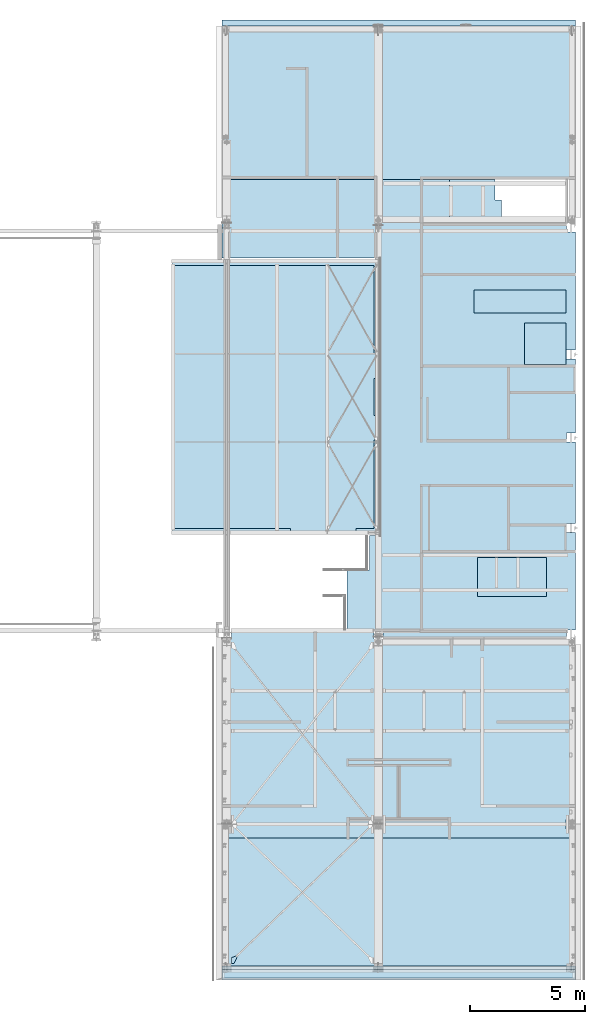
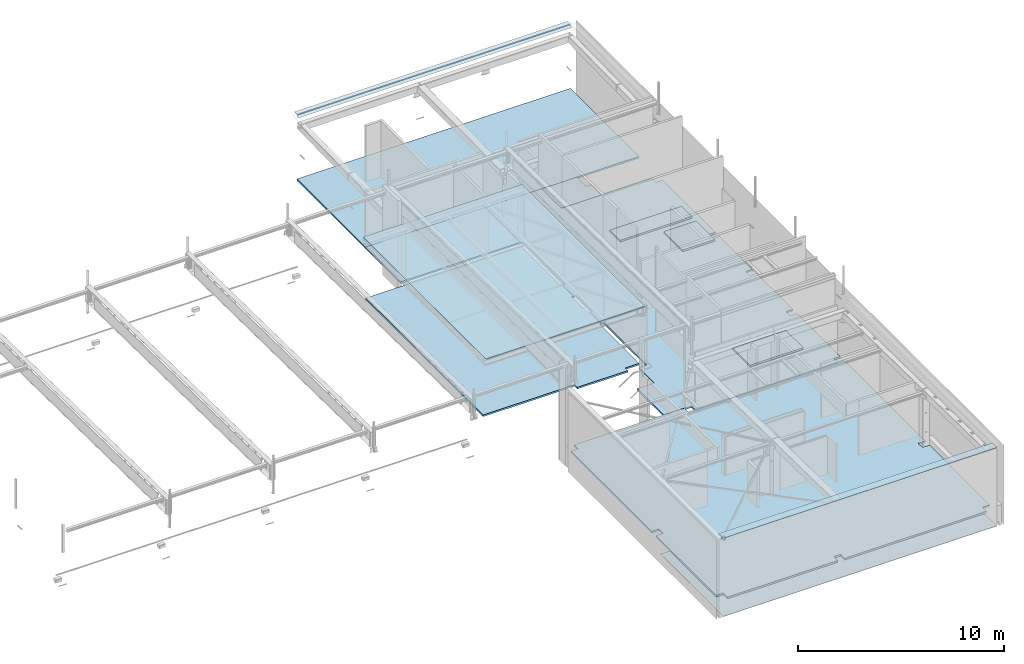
# One storey, part 114 of 186: 14 slabs, 1 plate, 3 elements without a shape of their own.
"""IFC4X3_ADD2 building model written with IfcOpenShell, lengths in millimetres."""

from ifc_helpers import new_model, si_unit, direction, frame, frame_2d, origin_with_axes, place, context, subcontext, project, spatial, polyline, rectangle, outline, extrude, clip, bounded_halfspace, material, layer, layer_set, layer_usage, type_object, element, aggregate, save


model = new_model("IFC4X3_ADD2")

# Units and contexts
model_context = context("Model", 3, precision=1e-05, world=origin_with_axes(), true_north=direction((0.0, 1.0)))
body_context = subcontext(model_context, "Body", "Model", "MODEL_VIEW")
ifc_project = project(units=[si_unit("LENGTHUNIT", "METRE", prefix="MILLI"), si_unit("AREAUNIT", "SQUARE_METRE"), si_unit("VOLUMEUNIT", "CUBIC_METRE"), si_unit("PLANEANGLEUNIT", "RADIAN"), si_unit("TIMEUNIT", "SECOND"), si_unit("MASSUNIT", "GRAM")], contexts=[model_context])

# Site, building, storey
site_placement = place(None, origin_with_axes())
site = spatial("IfcSite", under=ifc_project, at=site_placement, Name="Site", CompositionType="ELEMENT")
building_placement = place(site_placement, origin_with_axes())
building = spatial("IfcBuilding", under=site, at=building_placement, Name="IFC Building Story")
storey_placement = place(building_placement, frame((0.0, 0.0, 4370.0), z_axis=(0.0, 0.0, 1.0), x_axis=(1.0, 0.0, 0.0)))
storey = spatial("IfcBuildingStorey", under=building, at=storey_placement, Name="ETAGE 10 (1)", Elevation=4370.0)

# Slabs
ifc_material_1 = material(Name="BS_43_Revêtement de sol souple")
ifc_layer_1 = layer(ifc_material_1, 10.0)
ifc_material_2 = material(Name="BS_43_Panneau OSB")
ifc_layer_2 = layer(ifc_material_2, 18.0)
ifc_material_3 = material(Name="BS_43_Acoustix Pan-Terre")
ifc_layer_3 = layer(ifc_material_3, 16.0)
ifc_material_4 = material(Name="BS_43_Laine minérale")
ifc_layer_4 = layer(ifc_material_4, 56.0)
ifc_layer_set_1 = layer_set([ifc_layer_1, ifc_layer_2, ifc_layer_3, ifc_layer_4], Name="Sol:BS_43_FL_REV10-OSB18-ISOacou16-SUPP")
ifc_layer_usage_1 = layer_usage(ifc_layer_set_1, "AXIS3", "POSITIVE", 0.0)
slab_type_1 = type_object("IfcSlabType", Name="Sol:BS_43_FL_REV10-OSB18-ISOacou16-SUPP 100", PredefinedType="FLOOR", material=ifc_layer_set_1)
slab_1_placement = place(storey_placement, frame((31047.18947812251, 16170.50000007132, -100.0), z_axis=(0.0, 0.0, 1.0), x_axis=(0.0, -1.0, 0.0)))
element("IfcSlab", 1, at=slab_1_placement, inside=storey, type_object=slab_type_1, material=ifc_layer_usage_1, Name="Sol:BS_43_FL_REV10-OSB18-ISOacou16-SUPP", ObjectType="Sol:BS_43_FL_REV10-OSB18-ISOacou16-SUPP", PredefinedType="FLOOR", context=body_context, shape_type="SweptSolid", body=[
    extrude(outline(polyline([(4499.36030063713, -1993.375000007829), (4244.86030063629, -1993.375000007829), (4244.86030063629, -7107.874999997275), (-7155.639699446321, -7107.874999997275), (-7155.63969944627, 1619.625000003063), (-3316.639699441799, 1619.625000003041), (-3316.639699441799, 1704.125000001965), (-2256.639699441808, 1704.125000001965), (-2256.639699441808, 1617.125000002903), (-660.0809017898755, 1617.125000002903), (-660.0809017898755, 1704.125000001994), (399.9190982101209, 1704.125000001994), (399.9190982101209, 1619.625000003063), (4244.860300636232, 1619.625000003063), (4244.860300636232, 836.6249999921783), (4499.36030063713, 836.6249999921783), (4499.36030063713, -1993.375000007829)])), frame((7155.639699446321, 7107.874999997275, 0.0), z_axis=(0.0, 0.0, 1.0), x_axis=(1.0, 0.0, 0.0)), (0.0, 0.0, 1.0), 100.0),
])
ifc_material_5 = material(Name="BS_43_Chape")
slab_type_2 = type_object("IfcSlabType", Name="Sol:BS_43_FL_CHlissée100", PredefinedType="FLOOR", material=ifc_material_5)
slab_2_placement = place(storey_placement, frame((33201.6894781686, -14460.0, -100.0), z_axis=(0.0, 0.0, 1.0), x_axis=(1.0, 0.0, 0.0)))
element("IfcSlab", 2, at=slab_2_placement, inside=storey, type_object=slab_type_2, Name="Sol:BS_43_FL_CHlissée100", ObjectType="Sol:BS_43_FL_CHlissée100", PredefinedType="FLOOR", context=body_context, shape_type="SweptSolid", body=[
    extrude(outline(polyline([(8103.314974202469, -5400.185159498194), (8103.314974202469, -5800.185159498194), (162.8144960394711, -5800.185159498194), (162.8144960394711, -5425.185159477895), (147.8144960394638, -5410.185159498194), (-212.1855039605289, -5410.185159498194), (-227.1855039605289, -5425.185159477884), (-227.1855039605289, -5800.185159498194), (-6396.685025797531, -5800.185159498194), (-6396.685025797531, -5400.185159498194), (-6796.685025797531, -5400.185159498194), (-6796.685025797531, 429.8147538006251), (-6396.685025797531, 429.8147538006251), (-6396.685025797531, 829.8147538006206), (-6796.685025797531, 829.8147538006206), (-6796.685025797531, 8659.814840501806), (-6396.685025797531, 8659.814840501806), (-6396.685025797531, 9059.814840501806), (-227.1855039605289, 9059.814840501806), (-227.1855039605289, 8674.814840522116), (-212.1855039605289, 8659.814840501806), (8503.314974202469, 8659.814840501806), (8503.314974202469, 829.8147538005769), (8103.314974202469, 829.8147538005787), (8103.314974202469, 429.814753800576), (8503.314974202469, 429.814753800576), (8503.314974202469, -5400.185159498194), (8103.314974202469, -5400.185159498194)])), frame((6796.685025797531, 5800.185159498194, 0.0), z_axis=(0.0, 0.0, 1.0), x_axis=(1.0, 0.0, 0.0)), (0.0, 0.0, 1.0), 100.0),
])
slab_3_placement = place(storey_placement, frame((38621.189, 19900.0, -100.0), z_axis=(0.0, 0.0, 1.0), x_axis=(0.0, -1.0, 0.0)))
element("IfcSlab", 3, at=slab_3_placement, inside=storey, type_object=slab_type_2, Name="Sol:BS_43_FL_CHlissée100", ObjectType="Sol:BS_43_FL_CHlissée100", PredefinedType="FLOOR", context=body_context, shape_type="SweptSolid", body=[
    extrude(outline(polyline([(8332.536979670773, 3617.040603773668), (8707.536979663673, 3617.040603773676), (8707.536979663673, -4337.95839622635), (8317.536979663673, -4337.95839622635), (8317.536979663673, -4727.958396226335), (8307.536750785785, -4727.958396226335), (8307.536750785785, -5877.958396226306), (5737.537015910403, -5877.958396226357), (5737.537015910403, -4919.957918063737), (4239.536979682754, -4919.957918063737), (4239.536979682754, -4479.957918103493), (92.59577725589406, -4479.957918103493), (92.59577725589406, -4639.957918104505), (-967.4042227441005, -4639.957918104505), (-967.4042227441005, -4479.95791810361), (-2563.963020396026, -4479.95791810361), (-2563.963020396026, -4639.957918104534), (-3623.963020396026, -4639.957918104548), (-3623.963020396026, -4479.957918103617), (-7762.463020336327, -4479.957918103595), (-7762.463020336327, -4592.457918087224), (-11192.46302033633, -4592.457918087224), (-11192.46302033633, -1447.457918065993), (-9292.463020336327, -1447.457918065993), (-9292.463020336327, 3617.041240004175), (-8917.462631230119, 3617.041240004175), (-8902.462631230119, 3632.041240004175), (-8902.462631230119, 4002.54208193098), (-3807.463631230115, 4002.54208193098), (-3807.463631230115, 3632.041240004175), (-3792.463631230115, 3617.041240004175), (-3432.463631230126, 3617.041240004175), (-3417.463631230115, 3632.041240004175), (-3417.463631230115, 4002.54208193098), (-197.4636312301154, 4002.54208193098), (-197.4636312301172, 3632.041240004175), (-182.4636312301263, 3617.041240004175), (177.5363687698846, 3617.041240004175), (192.5363687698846, 3632.041240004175), (192.5363687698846, 4002.54208193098), (3712.536368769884, 4002.54208193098), (3712.536368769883, 3632.041240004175), (3727.536368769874, 3617.041240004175), (4087.536368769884, 3617.041240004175), (4102.536368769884, 3632.041240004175), (4102.536368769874, 4002.54208193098), (8317.536979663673, 4002.54208193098), (8317.536979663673, 3632.040603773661), (8332.536979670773, 3617.040603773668)])), frame((11192.46302033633, 5877.958396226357, 0.0), z_axis=(0.0, 0.0, 1.0), x_axis=(1.0, 0.0, 0.0)), (0.0, 0.0, 1.0), 100.0),
])
slab_4_placement = place(storey_placement, frame((33201.68947816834, 16501.50000006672, -100.0), z_axis=(0.0, 0.0, 1.0), x_axis=(1.0, 0.0, 0.0)))
element("IfcSlab", 4, at=slab_4_placement, inside=storey, type_object=slab_type_2, Name="Sol:BS_43_FL_CHlissée100", ObjectType="Sol:BS_43_FL_CHlissée100", PredefinedType="FLOOR", context=body_context, shape_type="SweptSolid", body=[
    extrude(rectangle(XDim=6704.999999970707, YDim=3398.499999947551, at=frame_2d((0.0, 5.95523630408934e-12), x_axis=(1.0, 0.0))), frame((3352.499999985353, 1699.249999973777, 0.0), z_axis=(0.0, 0.0, 1.0), x_axis=(1.0, 0.0, 0.0)), (0.0, 0.0, 1.0), 100.0),
])
ifc_material_6 = material(Name="BS_28_Ossature en béton armé - Eléments coulé sur place")
slab_type_3 = type_object("IfcSlabType", Name="Sol:DG_23_FL_SocleEquipement100mm", PredefinedType="FLOOR", material=ifc_material_6)
slab_5_placement = place(storey_placement, frame((44101.68947815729, 14104.00000000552, 0.0), z_axis=(0.0, 0.0, 1.0), x_axis=(1.0, 0.0, 0.0)))
element("IfcSlab", 5, at=slab_5_placement, inside=storey, type_object=slab_type_3, Name="Sol:DG_23_FL_SocleEquipement100mm", ObjectType="Sol:DG_23_FL_SocleEquipement100mm", PredefinedType="FLOOR", context=body_context, shape_type="SweptSolid", body=[
    extrude(rectangle(XDim=4000.000000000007, YDim=999.9999999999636, at=frame_2d((0.0, 5.95523630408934e-12), x_axis=(1.0, 0.0))), frame((2000.0, 499.9999999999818, 0.0), z_axis=(0.0, 0.0, 1.0), x_axis=(1.0, 0.0, 0.0)), (0.0, 0.0, 1.0), 100.0),
])
slab_6_placement = place(storey_placement, frame((46301.68947815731, 13685.00000001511, 0.0), z_axis=(0.0, 0.0, 1.0), x_axis=(0.0, -1.0, 0.0)))
element("IfcSlab", 6, at=slab_6_placement, inside=storey, type_object=slab_type_3, Name="Sol:DG_23_FL_SocleEquipement100mm", ObjectType="Sol:DG_23_FL_SocleEquipement100mm", PredefinedType="FLOOR", context=body_context, shape_type="SweptSolid", body=[
    extrude(rectangle(XDim=1807.25000000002, YDim=1799.999999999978, at=frame_2d((0.0, 5.95523630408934e-12), x_axis=(-1.0, 0.0))), frame((903.6250000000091, 899.9999999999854, 0.0), z_axis=(0.0, 0.0, 1.0), x_axis=(1.0, 0.0, 0.0)), (0.0, 0.0, 1.0), 100.0),
])
slab_7_placement = place(storey_placement, frame((44272.68947815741, 1823.999999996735, 0.0), z_axis=(0.0, 0.0, 1.0), x_axis=(1.0, 0.0, 0.0)))
element("IfcSlab", 7, at=slab_7_placement, inside=storey, type_object=slab_type_3, Name="Sol:DG_23_FL_SocleEquipement100mm", ObjectType="Sol:DG_23_FL_SocleEquipement100mm", PredefinedType="FLOOR", context=body_context, shape_type="SweptSolid", body=[
    extrude(rectangle(XDim=2968.999999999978, YDim=1686.00000000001, at=frame_2d((0.0, 5.95523630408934e-12), x_axis=(1.0, 0.0))), frame((1484.499999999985, 843.000000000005, 0.0), z_axis=(0.0, 0.0, 1.0), x_axis=(1.0, 0.0, 0.0)), (0.0, 0.0, 1.0), 100.0),
])
ifc_material_7 = material(Name="BS_41_Bardage en tôle perforé")
slab_type_4 = type_object("IfcSlabType", Name="Sol:DG_35_FL_Métal déployé", PredefinedType="FLOOR", material=ifc_material_7)
slab_8_placement = place(storey_placement, frame((33211.57019213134, -14740.00000089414, -845.5824798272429), z_axis=(0.0, 0.0, 1.0), x_axis=(1.0, 0.0, 0.0)))
element("IfcSlab", 8, at=slab_8_placement, inside=storey, type_object=slab_type_4, Name="Sol:DG_35_FL_Métal déployé", ObjectType="Sol:DG_35_FL_Métal déployé", PredefinedType="FLOOR", context=body_context, shape_type="SweptSolid", body=[
    extrude(rectangle(XDim=15280.0000047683, YDim=6100.000001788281, at=frame_2d((0.0, 5.95523630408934e-12), x_axis=(1.0, 0.0))), frame((7640.000002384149, 3050.000000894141, 0.0), z_axis=(0.0, 0.0, 1.0), x_axis=(1.0, 0.0, 0.0)), (0.0, 0.0, 1.0), 9.999999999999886),
])
ifc_material_8 = material(Name="BS_43_Plaques fibres-gypse (Fermacell)")
ifc_layer_5 = layer(ifc_material_8, 25.0)
ifc_layer_6 = layer(ifc_material_4, 20.0)
ifc_layer_set_2 = layer_set([ifc_layer_5, ifc_layer_6], Name="Sol:BS_43_FL_CHsèche acoustique45")
ifc_layer_usage_2 = layer_usage(ifc_layer_set_2, "AXIS3", "POSITIVE", 0.0)
slab_type_5 = type_object("IfcSlabType", Name="Sol:BS_43_FL_CHsèche acoustique45 45", PredefinedType="FLOOR", material=ifc_layer_set_2)
slab_9_placement = place(storey_placement, frame((31049.68947812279, 16419.9999999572, 3417.999999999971), z_axis=(0.0, 0.0, 1.0), x_axis=(0.0, -1.0, 0.0)))
element("IfcSlab", 9, at=slab_9_placement, inside=storey, type_object=slab_type_5, material=ifc_layer_usage_2, Name="Sol:BS_43_FL_CHsèche acoustique45", ObjectType="Sol:BS_43_FL_CHsèche acoustique45", PredefinedType="FLOOR", context=body_context, shape_type="SweptSolid", body=[
    extrude(rectangle(XDim=11901.9999999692, YDim=8898.999999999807, at=frame_2d((0.0, 5.95523630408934e-12), x_axis=(-1.0, 0.0))), frame((5950.999999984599, 4449.499999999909, 0.0), z_axis=(0.0, 0.0, 1.0), x_axis=(1.0, 0.0, 0.0)), (0.0, 0.0, 1.0), 44.99999999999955),
])
ifc_layer_7 = layer(ifc_material_1, 2.0)
ifc_layer_8 = layer(ifc_material_5, 98.0)
ifc_layer_set_3 = layer_set([ifc_layer_7, ifc_layer_8], Name="Sol:BS_43_FL_CHsèche98-Lino2")
ifc_layer_usage_3 = layer_usage(ifc_layer_set_3, "AXIS3", "POSITIVE", 0.0)
slab_type_6 = type_object("IfcSlabType", Name="Sol:BS_43_FL_CHsèche98-Lino2 100", PredefinedType="FLOOR", material=ifc_layer_set_3)
slab_10_placement = place(storey_placement, frame((33201.6894781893, 19900.00000001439, -100.0), z_axis=(0.0, 0.0, 1.0), x_axis=(1.0, 0.0, 0.0)))
element("IfcSlab", 10, at=slab_10_placement, inside=storey, type_object=slab_type_6, material=ifc_layer_usage_3, Name="Sol:BS_43_FL_CHsèche98-Lino2", ObjectType="Sol:BS_43_FL_CHsèche98-Lino2", PredefinedType="FLOOR", context=body_context, shape_type="SweptSolid", body=[
    extrude(rectangle(XDim=15299.999999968, YDim=6649.999999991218, at=frame_2d((0.0, 5.95523630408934e-12), x_axis=(1.0, 0.0))), frame((7649.999999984, 3324.999999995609, 0.0), z_axis=(0.0, 0.0, 1.0), x_axis=(1.0, 0.0, 0.0)), (0.0, 0.0, 1.0), 100.0),
])
slab_type_7 = type_object("IfcSlabType", Name="Sol:BS_43_FL_CHlissée130", PredefinedType="FLOOR", material=ifc_material_5)
slab_11_placement = place(storey_placement, frame((43051.68947816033, 18000.00000000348, -130.0), z_axis=(0.0, 0.0, 1.0), x_axis=(1.0, 0.0, 0.0)))
element("IfcSlab", 11, at=slab_11_placement, inside=storey, type_object=slab_type_7, Name="Sol:BS_43_FL_CHlissée130", ObjectType="Sol:BS_43_FL_CHlissée130", PredefinedType="FLOOR", context=body_context, shape_type="SweptSolid", body=[
    extrude(outline(polyline([(853.3333333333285, 33.33333332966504), (853.3333333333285, -966.6666666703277), (-1406.666666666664, -966.6666666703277), (-1406.666666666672, 933.3333333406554), (553.3333333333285, 933.3333333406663), (553.3333333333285, 33.33333332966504), (853.3333333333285, 33.33333332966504)])), frame((1406.666666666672, 966.6666666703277, 0.0), z_axis=(0.0, 0.0, 1.0), x_axis=(1.0, 0.0, 0.0)), (0.0, 0.0, 1.0), 130.0),
])

# Plate
ifc_material_9 = material(Name="Acier - B 500 B")
plate_placement = place(storey_placement, frame((33673.53808079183, -13691.62635505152, 3115.237864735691), z_axis=(0.0, 0.0, 1.0), x_axis=(-0.4589139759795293, -0.8884807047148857, 0.0)))
element("IfcPlate", 12, at=plate_placement, inside=storey, material=ifc_material_9, Name="-", ObjectType="Aucun", context=body_context, shape_type="SweptSolid", body=[
    extrude(outline(polyline([(144.4580468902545, 80.82629712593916), (194.0251574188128, -15.12734560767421), (-28.22950122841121, -129.9382159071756), (-170.6443946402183, -16.56097515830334), (-139.609308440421, 80.8002395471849), (144.4580468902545, 80.82629712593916)])), frame((170.7625000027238, 130.0013773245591, 2.387901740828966), z_axis=(-0.01332570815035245, -0.006882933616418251, 0.9998875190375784), x_axis=(0.9999112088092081, -9.17281092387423e-05, 0.01332539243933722)), (0.0, 0.0, 1.0), 10.0),
])

# Roof, slab
roof_1_placement = place(storey_placement, frame((0.0, 0.0, -4370.0), z_axis=(0.0, 0.0, 1.0), x_axis=(1.0, 0.0, 0.0)))
roof_1 = element("IfcRoof", 13, at=roof_1_placement, inside=storey, PredefinedType="NOTDEFINED")
slab_12_placement = place(roof_1_placement, frame((33201.6894781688, -14700.00000004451, 8031.438032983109), z_axis=(0.0, 0.0, 1.0), x_axis=(1.0, 0.0, 0.0)))
slab_12 = element("IfcSlab", 14, at=slab_12_placement, Name="BS_27_RO_Isolant toiture PIR:BS_27_RO_Isolant toiture PIR:1", ObjectType="BS_27_RO_Isolant toiture PIR:BS_27_RO_Isolant toiture PIR", PredefinedType="ROOF", context=body_context, shape_type="Clipping", body=[
    clip(clip(clip(clip(extrude(outline(polyline([(7649.999999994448, 262.9560478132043), (7649.999999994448, -262.956047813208), (-7649.999999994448, -262.956047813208), (-7649.999999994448, 262.9560478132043), (7649.999999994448, 262.9560478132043)])), frame((7649.999999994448, 262.956047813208, 0.0), z_axis=(0.0, 0.0, 1.0), x_axis=(1.0, 0.0, 0.0)), (0.0, 0.0, 1.0), 148.5619670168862), bounded_halfspace(frame((-33201.6894781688, 11628.67506432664, -11102.76296870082), z_axis=(0.0, 0.7071067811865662, 0.707106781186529), x_axis=(-1.0, 0.0, 0.0)), False, frame((7649.999999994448, 262.956047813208, 0.0), z_axis=(0.0, 0.0, 1.0), x_axis=(1.0, 0.0, 0.0)), polyline([(7649.999999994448, 114.3940807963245), (7649.999999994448, 262.9560478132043), (-7649.999999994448, 262.9560478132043), (-7649.999999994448, 114.3940807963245), (7649.999999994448, 114.3940807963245)]))), bounded_halfspace(frame((-33201.6894781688, 14821.33447974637, -222.1097084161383), z_axis=(0.0, -0.01553524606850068, -0.999879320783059), x_axis=(-1.0, 0.0, 0.0)), False, frame((7649.999999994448, 262.956047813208, 0.0), z_axis=(0.0, 0.0, 1.0), x_axis=(1.0, 0.0, 0.0)), polyline([(7649.999999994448, 262.9560478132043), (7649.999999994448, 111.3146908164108), (-7649.999999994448, 111.3146908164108), (-7649.999999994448, 262.9560478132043), (7649.999999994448, 262.9560478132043)]))), bounded_halfspace(frame((-33201.6894781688, 437.0940117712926, -8141.465303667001), z_axis=(0.0, -0.9999702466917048, -0.007713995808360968), x_axis=(1.0, 0.0, 0.0)), False, frame((7649.999999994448, 262.956047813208, 0.0), z_axis=(0.0, 0.0, 1.0), x_axis=(1.0, 0.0, 0.0)), polyline([(7649.999999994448, 111.3146908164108), (7649.999999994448, 110.8039636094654), (-7649.999999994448, 110.8039636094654), (-7649.999999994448, 111.3146908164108), (7649.999999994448, 111.3146908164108)]))), bounded_halfspace(frame((-33201.6894781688, 14700.00000004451, 68.56196701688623), z_axis=(0.0, 0.0, -1.0), x_axis=(-1.0, 0.0, 0.0)), False, frame((7649.999999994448, 262.956047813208, 0.0), z_axis=(0.0, 0.0, 1.0), x_axis=(1.0, 0.0, 0.0)), polyline([(7649.999999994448, 110.8039636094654), (7649.999999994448, -262.956047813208), (-7649.999999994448, -262.956047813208), (-7649.999999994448, 110.8039636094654), (7649.999999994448, 110.8039636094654)]))),
])
aggregate(roof_1, [slab_12])

roof_2_placement = place(storey_placement, frame((0.0, 0.0, -4370.0), z_axis=(0.0, 0.0, 1.0), x_axis=(1.0, 0.0, 0.0)))
roof_2 = element("IfcRoof", 15, at=roof_2_placement, inside=storey, PredefinedType="NOTDEFINED")
slab_13_placement = place(roof_2_placement, frame((33201.6894781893, 26434.05643517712, 8026.166097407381), z_axis=(0.0, 0.0, 1.0), x_axis=(1.0, 0.0, 0.0)))
slab_13 = element("IfcSlab", 16, at=slab_13_placement, Name="BS_47_RO_Etanchéité acrotère 3 technology:BS_47_RO_Etanchéité acrotère 3 technology:1", ObjectType="BS_47_RO_Etanchéité acrotère 3 technology:BS_47_RO_Etanchéité acrotère 3 technology", PredefinedType="ROOF", context=body_context, shape_type="Clipping", body=[
    clip(clip(clip(clip(extrude(outline(polyline([(-7649.999999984, -182.9717824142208), (-7649.999999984, 182.9717824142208), (7649.999999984, 182.9717824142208), (7649.999999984, -182.9717824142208), (-7649.999999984, -182.9717824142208)])), frame((7649.999999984, 182.9717824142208, 0.0), z_axis=(0.0, 0.0, 1.0), x_axis=(1.0, 0.0, 0.0)), (0.0, 0.0, 1.0), 158.8339025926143), bounded_halfspace(frame((-33201.6894781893, -17223.04019848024, -17237.18233410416), z_axis=(0.0, 0.7071067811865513, -0.7071067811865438), x_axis=(-1.0, 0.0, 0.0)), False, frame((7649.999999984, 182.9717824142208, 0.0), z_axis=(0.0, 0.0, 1.0), x_axis=(1.0, 0.0, 0.0)), polyline([(7649.999999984, -67.0282175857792), (7649.999999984, -168.6064508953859), (-7649.999999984, -168.6064508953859), (-7649.999999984, -67.0282175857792), (7649.999999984, -67.0282175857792)]))), bounded_halfspace(frame((-33201.6894781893, -26552.35015568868, -412.5470792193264), z_axis=(0.0, 0.01553524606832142, -0.9998793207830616), x_axis=(-1.0, 0.0, 0.0)), False, frame((7649.999999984, 182.9717824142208, 0.0), z_axis=(0.0, 0.0, 1.0), x_axis=(1.0, 0.0, 0.0)), polyline([(7649.999999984, -168.6064508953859), (7649.999999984, -182.9717824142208), (-7649.999999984, -182.9717824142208), (-7649.999999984, -168.6064508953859), (7649.999999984, -168.6064508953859)]))), bounded_halfspace(frame((-33201.6894781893, -17230.11126629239, -17230.1112662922), z_axis=(0.0, -0.7071067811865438, 0.7071067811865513), x_axis=(1.0, 0.0, 0.0)), False, frame((7649.999999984, 182.9717824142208, 0.0), z_axis=(0.0, 0.0, 1.0), x_axis=(1.0, 0.0, 0.0)), polyline([(7649.999999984, -182.9717824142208), (7649.999999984, -77.0282175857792), (-7649.999999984, -77.0282175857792), (-7649.999999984, -182.9717824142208), (7649.999999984, -182.9717824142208)]))), bounded_halfspace(frame((-33201.6894781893, -26434.05643517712, 148.8339025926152), z_axis=(0.0, 0.0, -1.0), x_axis=(-1.0, 0.0, 0.0)), False, frame((7649.999999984, 182.9717824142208, 0.0), z_axis=(0.0, 0.0, 1.0), x_axis=(1.0, 0.0, 0.0)), polyline([(7649.999999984, 182.9717824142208), (7649.999999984, -67.0282175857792), (-7649.999999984, -67.0282175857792), (-7649.999999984, 182.9717824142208), (7649.999999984, 182.9717824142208)]))),
])
aggregate(roof_2, [slab_13])

roof_3_placement = place(storey_placement, frame((0.0, 0.0, -4370.0), z_axis=(0.0, 0.0, 1.0), x_axis=(1.0, 0.0, 0.0)))
roof_3 = element("IfcRoof", 17, at=roof_3_placement, inside=storey, PredefinedType="NOTDEFINED")
slab_14_placement = place(roof_3_placement, frame((33201.6894781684, -14780.00000004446, 8041.615574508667), z_axis=(0.0, 0.0, 1.0), x_axis=(1.0, 0.0, 0.0)))
slab_14 = element("IfcSlab", 18, at=slab_14_placement, Name="BS_47_RO_Etanchéité acrotère 3 bureaux:BS_47_RO_Etanchéité acrotère 3 bureaux:1", ObjectType="BS_47_RO_Etanchéité acrotère 3 bureaux:BS_47_RO_Etanchéité acrotère 3 bureaux", PredefinedType="ROOF", context=body_context, shape_type="Clipping", body=[
    clip(clip(clip(extrude(outline(polyline([(7649.999999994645, 304.9383448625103), (7649.999999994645, -304.9383448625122), (-7649.999999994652, -304.9383448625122), (-7649.999999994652, 304.9383448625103), (7649.999999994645, 304.9383448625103)])), frame((7649.999999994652, 304.9383448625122, 0.0), z_axis=(0.0, 0.0, 1.0), x_axis=(1.0, 0.0, 0.0)), (0.0, 0.0, 1.0), 148.3844254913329), bounded_halfspace(frame((-33201.6894781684, 11715.74613213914, -11105.86944241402), z_axis=(0.0, 0.7071067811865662, 0.707106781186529), x_axis=(-1.0, 0.0, 0.0)), False, frame((7649.999999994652, 304.9383448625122, 0.0), z_axis=(0.0, 0.0, 1.0), x_axis=(1.0, 0.0, 0.0)), polyline([(7649.999999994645, 156.5539193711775), (7649.999999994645, 304.9383448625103), (-7649.999999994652, 304.9383448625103), (-7649.999999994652, 156.5539193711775), (7649.999999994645, 156.5539193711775)]))), bounded_halfspace(frame((-33201.6894781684, 11708.67506432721, -11112.94051022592), z_axis=(0.0, -0.7071067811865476, -0.7071067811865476), x_axis=(1.0, 0.0, 0.0)), False, frame((7649.999999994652, 304.9383448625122, 0.0), z_axis=(0.0, 0.0, 1.0), x_axis=(1.0, 0.0, 0.0)), polyline([(7649.999999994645, 290.7962092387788), (7649.999999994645, 152.411783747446), (-7649.999999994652, 152.411783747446), (-7649.999999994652, 290.7962092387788), (7649.999999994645, 290.7962092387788)]))), bounded_halfspace(frame((-33201.6894781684, 14780.00000004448, 138.3844254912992), z_axis=(0.0, 0.0, -1.0), x_axis=(-1.0, 0.0, 0.0)), False, frame((7649.999999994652, 304.9383448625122, 0.0), z_axis=(0.0, 0.0, 1.0), x_axis=(1.0, 0.0, 0.0)), polyline([(7649.999999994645, 152.411783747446), (7649.999999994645, -304.9383448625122), (-7649.999999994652, -304.9383448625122), (-7649.999999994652, 152.411783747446), (7649.999999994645, 152.411783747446)]))),
])
aggregate(roof_3, [slab_14])

save(model, "model.ifc")
